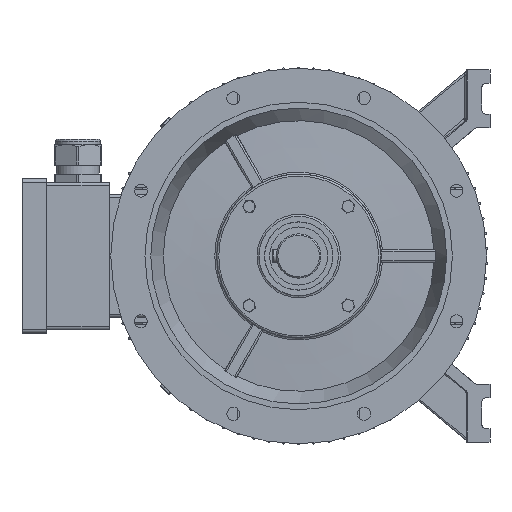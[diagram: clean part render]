
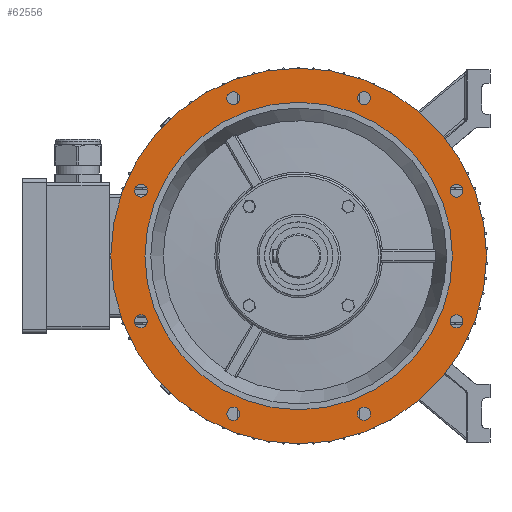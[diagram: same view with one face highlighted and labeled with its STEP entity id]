
A CAD part, left-side view. The second image highlights one B-rep face of the part: STEP entity #62556.
In plain terms, the highlighted planar face has unit normal (-1, 0, 0).
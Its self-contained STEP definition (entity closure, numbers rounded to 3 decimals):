
#2888=PLANE('',#66127);
#21207=FACE_BOUND('',#27698,.T.);
#21208=FACE_BOUND('',#27699,.T.);
#21209=FACE_BOUND('',#27700,.T.);
#21210=FACE_BOUND('',#27701,.T.);
#21211=FACE_BOUND('',#27702,.T.);
#21212=FACE_BOUND('',#27703,.T.);
#21213=FACE_BOUND('',#27704,.T.);
#21214=FACE_BOUND('',#27705,.T.);
#21215=FACE_BOUND('',#27706,.T.);
#23725=FACE_OUTER_BOUND('',#27697,.T.);
#27697=EDGE_LOOP('',(#54800));
#27698=EDGE_LOOP('',(#54801));
#27699=EDGE_LOOP('',(#54802));
#27700=EDGE_LOOP('',(#54803));
#27701=EDGE_LOOP('',(#54804));
#27702=EDGE_LOOP('',(#54805));
#27703=EDGE_LOOP('',(#54806));
#27704=EDGE_LOOP('',(#54807));
#27705=EDGE_LOOP('',(#54808));
#27706=EDGE_LOOP('',(#54809));
#28960=CIRCLE('',#66110,9.5);
#28961=CIRCLE('',#66112,9.5);
#28962=CIRCLE('',#66114,9.5);
#28963=CIRCLE('',#66116,9.5);
#28964=CIRCLE('',#66118,9.5);
#28965=CIRCLE('',#66120,9.5);
#28966=CIRCLE('',#66122,9.5);
#28967=CIRCLE('',#66124,9.5);
#28968=CIRCLE('',#66126,275.);
#28969=CIRCLE('',#66128,225.);
#33558=VERTEX_POINT('',#98163);
#33559=VERTEX_POINT('',#98166);
#33560=VERTEX_POINT('',#98169);
#33561=VERTEX_POINT('',#98172);
#33562=VERTEX_POINT('',#98175);
#33563=VERTEX_POINT('',#98178);
#33564=VERTEX_POINT('',#98181);
#33565=VERTEX_POINT('',#98184);
#33566=VERTEX_POINT('',#98187);
#33567=VERTEX_POINT('',#98190);
#40879=EDGE_CURVE('',#33558,#33558,#28960,.T.);
#40880=EDGE_CURVE('',#33559,#33559,#28961,.T.);
#40881=EDGE_CURVE('',#33560,#33560,#28962,.T.);
#40882=EDGE_CURVE('',#33561,#33561,#28963,.T.);
#40883=EDGE_CURVE('',#33562,#33562,#28964,.T.);
#40884=EDGE_CURVE('',#33563,#33563,#28965,.T.);
#40885=EDGE_CURVE('',#33564,#33564,#28966,.T.);
#40886=EDGE_CURVE('',#33565,#33565,#28967,.T.);
#40887=EDGE_CURVE('',#33566,#33566,#28968,.T.);
#40888=EDGE_CURVE('',#33567,#33567,#28969,.T.);
#54800=ORIENTED_EDGE('',*,*,#40887,.F.);
#54801=ORIENTED_EDGE('',*,*,#40879,.T.);
#54802=ORIENTED_EDGE('',*,*,#40880,.T.);
#54803=ORIENTED_EDGE('',*,*,#40881,.T.);
#54804=ORIENTED_EDGE('',*,*,#40882,.T.);
#54805=ORIENTED_EDGE('',*,*,#40883,.T.);
#54806=ORIENTED_EDGE('',*,*,#40884,.T.);
#54807=ORIENTED_EDGE('',*,*,#40885,.T.);
#54808=ORIENTED_EDGE('',*,*,#40886,.T.);
#54809=ORIENTED_EDGE('',*,*,#40888,.T.);
#62556=ADVANCED_FACE('',(#23725,#21207,#21208,#21209,#21210,#21211,#21212,
#21213,#21214,#21215),#2888,.T.);
#66110=AXIS2_PLACEMENT_3D('',#98164,#78464,#78465);
#66112=AXIS2_PLACEMENT_3D('',#98167,#78468,#78469);
#66114=AXIS2_PLACEMENT_3D('',#98170,#78472,#78473);
#66116=AXIS2_PLACEMENT_3D('',#98173,#78476,#78477);
#66118=AXIS2_PLACEMENT_3D('',#98176,#78480,#78481);
#66120=AXIS2_PLACEMENT_3D('',#98179,#78484,#78485);
#66122=AXIS2_PLACEMENT_3D('',#98182,#78488,#78489);
#66124=AXIS2_PLACEMENT_3D('',#98185,#78492,#78493);
#66126=AXIS2_PLACEMENT_3D('',#98188,#78496,#78497);
#66127=AXIS2_PLACEMENT_3D('',#98189,#78498,#78499);
#66128=AXIS2_PLACEMENT_3D('',#98191,#78500,#78501);
#78464=DIRECTION('center_axis',(1.,0.,0.));
#78465=DIRECTION('ref_axis',(0.,0.707,0.707));
#78468=DIRECTION('center_axis',(1.,0.,0.));
#78469=DIRECTION('ref_axis',(0.,1.,0.));
#78472=DIRECTION('center_axis',(1.,0.,0.));
#78473=DIRECTION('ref_axis',(0.,0.707,-0.707));
#78476=DIRECTION('center_axis',(1.,0.,0.));
#78477=DIRECTION('ref_axis',(0.,0.,
-1.));
#78480=DIRECTION('center_axis',(1.,0.,0.));
#78481=DIRECTION('ref_axis',(0.,-0.707,-0.707));
#78484=DIRECTION('center_axis',(1.,0.,0.));
#78485=DIRECTION('ref_axis',(0.,-1.,0.));
#78488=DIRECTION('center_axis',(1.,0.,0.));
#78489=DIRECTION('ref_axis',(0.,-0.707,0.707));
#78492=DIRECTION('center_axis',(1.,0.,0.));
#78493=DIRECTION('ref_axis',(0.,0.,
1.));
#78496=DIRECTION('center_axis',(1.,0.,0.));
#78497=DIRECTION('ref_axis',(0.,1.,0.));
#78498=DIRECTION('center_axis',(-1.,0.,0.));
#78499=DIRECTION('ref_axis',(0.,0.,1.));
#78500=DIRECTION('center_axis',(1.,0.,0.));
#78501=DIRECTION('ref_axis',(0.,1.,0.));
#98163=CARTESIAN_POINT('',(140.,88.953,-237.687));
#98164=CARTESIAN_POINT('Origin',(140.,95.671,-230.97));
#98166=CARTESIAN_POINT('',(140.,-105.171,-230.97));
#98167=CARTESIAN_POINT('Origin',(140.,-95.671,-230.97));
#98169=CARTESIAN_POINT('',(140.,-237.687,-88.953));
#98170=CARTESIAN_POINT('Origin',(140.,-230.97,-95.671));
#98172=CARTESIAN_POINT('',(140.,-230.97,105.171));
#98173=CARTESIAN_POINT('Origin',(140.,-230.97,95.671));
#98175=CARTESIAN_POINT('',(140.,-88.953,237.687));
#98176=CARTESIAN_POINT('Origin',(140.,-95.671,230.97));
#98178=CARTESIAN_POINT('',(140.,105.171,230.97));
#98179=CARTESIAN_POINT('Origin',(140.,95.671,230.97));
#98181=CARTESIAN_POINT('',(140.,237.687,88.953));
#98182=CARTESIAN_POINT('Origin',(140.,230.97,95.671));
#98184=CARTESIAN_POINT('',(140.,230.97,-105.171));
#98185=CARTESIAN_POINT('Origin',(140.,230.97,-95.671));
#98187=CARTESIAN_POINT('',(140.,275.,0.));
#98188=CARTESIAN_POINT('Origin',(140.,0.,0.));
#98189=CARTESIAN_POINT('Origin',(140.,250.,0.));
#98190=CARTESIAN_POINT('',(140.,225.,0.));
#98191=CARTESIAN_POINT('Origin',(140.,0.,0.));
